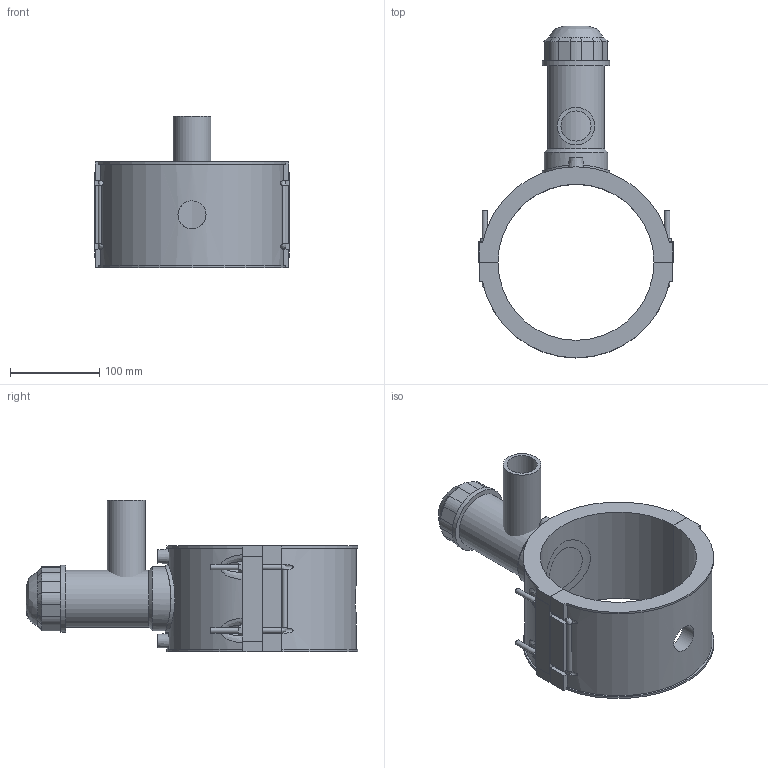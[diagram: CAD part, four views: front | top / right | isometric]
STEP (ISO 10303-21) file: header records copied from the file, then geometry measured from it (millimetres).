
FILE_DESCRIPTION(/* description */ ('PLASSON TAPPING SADDLE 6''''DIPS x 1 1/4''''IPS'),/* implementation_level */ '2;1');
FILE_NAME(/* name */ 'C:\Dropbox\KIMPROJECTS-Inventor 2019\99-16-3568-Processing Inch\ASTM ElectroFusion 2021\5963DBP_5963BUP\5963DBP3060013.ipt.stp',/* time_stamp */ '2021-08-30T09:58:33+03:00',/* author */ ('KIM'),/* organization */ (''),/* preprocessor_version */ 'ST-DEVELOPER v17.2',/* originating_system */ 'Autodesk Inventor 2019',/* authorisation */ '');
FILE_SCHEMA (('AUTOMOTIVE_DESIGN { 1 0 10303 214 3 1 1 }'));
Length unit declared in the file: inch
Products named in the file (1): 5963DBP3060013
Bounding box: 217.9 x 371.08 x 169.04 mm (x, y, z)
Volume: 1681948.7 mm3; surface area: 285787.9 mm2
Topology: 3 solids, 3 shells, 200 faces, 521 edges, 340 vertices
Faces by surface type: plane 125, cylinder 51, cone 15, bspline 9
Full cylindrical faces by diameter (mm): 4 x2, 6 x8, 10 x2, 31.36 x1, 33.68 x1, 42.1 x1, 52.524 x1, 63.78 x1, 71.283 x1, 75.035 x2
Entity records: 7416 total; most frequent: CARTESIAN_POINT 2469, ORIENTED_EDGE 1042, DIRECTION 976, EDGE_CURVE 521, VERTEX_POINT 340, AXIS2_PLACEMENT_3D 330, LINE 316, VECTOR 316
